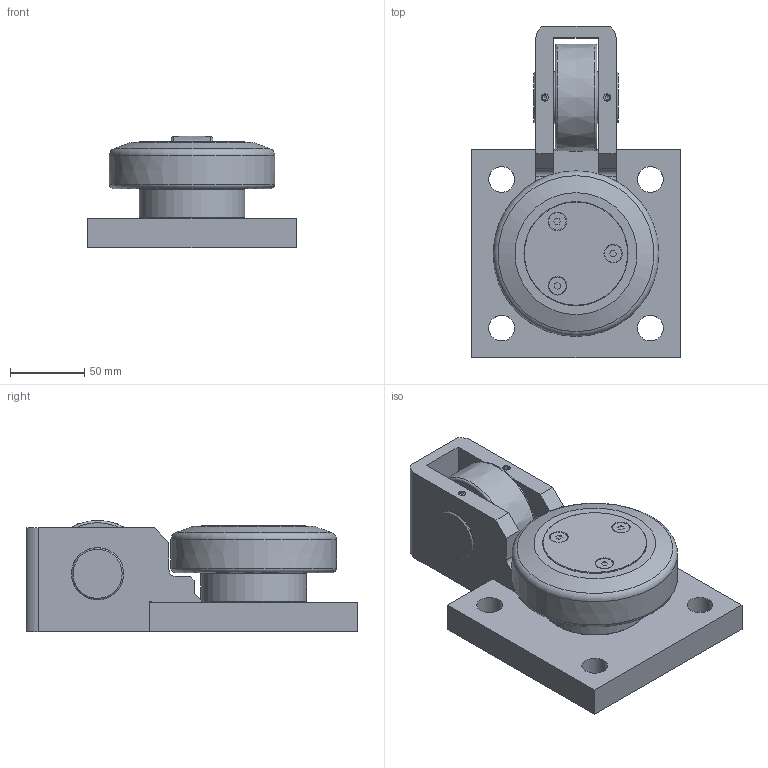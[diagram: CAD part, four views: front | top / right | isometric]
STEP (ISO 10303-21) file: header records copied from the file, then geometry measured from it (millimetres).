
FILE_DESCRIPTION(/* description */ ('-','CAx-IF Rec.Pracs.---Representation and Presentation of Product Manufacturing Information (PMI)---4.0---2014-10-13'),/* implementation_level */ '2;1');
FILE_NAME(/* name */ 'c:\temp\3693800f-1364-4502-879d-1885f209acb6\4347b796-12bf-40a4-9ff5-cb5ad3be83ac.stp',/* time_stamp */ '2020-04-01T16:43:55+02:00',/* author */ ('-'),/* organization */ ('NTI CADcenter A/S'),/* preprocessor_version */ 'ST-DEVELOPER v18',/* originating_system */ 'Autodesk Inventor 2020',/* authorisation */ '-');
FILE_SCHEMA (('AP242_MANAGED_MODEL_BASED_3D_ENGINEERING_MIM_LF { 1 0 10303 442 1 1 4 }'));
Length unit declared in the file: millimetre
Products named in the file (1): XSTR 110.6200_Kontur
Bounding box: 140 x 223 x 75 mm (x, y, z)
Volume: 1035137.7 mm3; surface area: 130600.2 mm2
Topology: 2 solids, 2 shells, 129 faces, 344 edges, 235 vertices
Faces by surface type: plane 76, cylinder 29, cone 16, torus 6, bspline 2
Full cylindrical faces by diameter (mm): 4.917 x4, 11.7 x3, 12.4 x3, 17.294 x4, 35 x4, 35.1 x2, 70 x1, 70.5 x1, 71 x1
Entity records: 4241 total; most frequent: CARTESIAN_POINT 849, DIRECTION 711, ORIENTED_EDGE 684, EDGE_CURVE 342, AXIS2_PLACEMENT_3D 255, VERTEX_POINT 235, LINE 201, VECTOR 201
